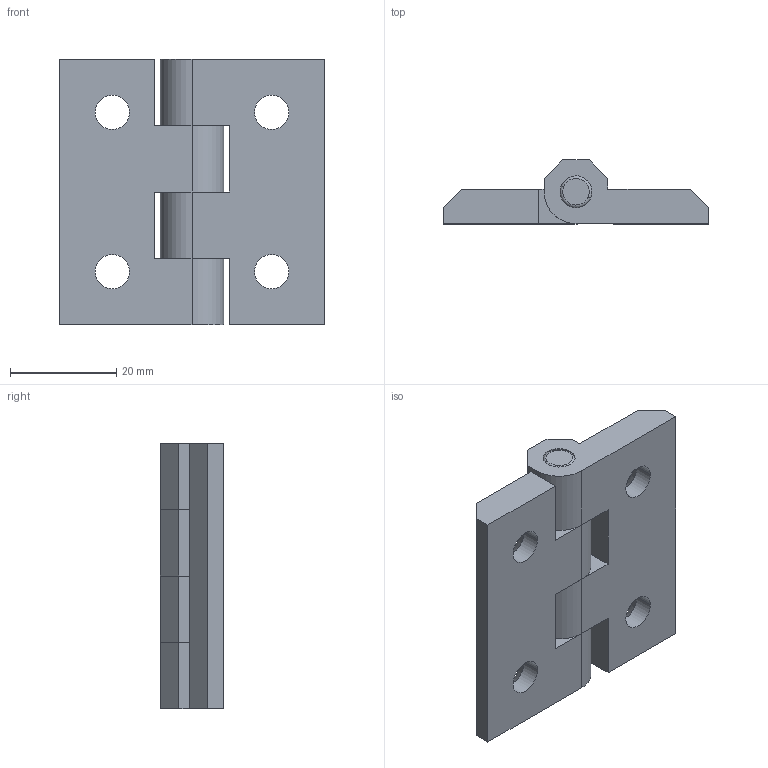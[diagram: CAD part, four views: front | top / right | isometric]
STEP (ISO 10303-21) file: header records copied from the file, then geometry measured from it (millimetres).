
FILE_DESCRIPTION (( 'STEP AP203' ), '1' );
FILE_NAME ('209-CE-HGAL-30.STEP', '2015-07-09T09:26:21', ( '' ), ( '' ), 'SwSTEP 2.0', 'SolidWorks 2013', '' );
FILE_SCHEMA (( 'CONFIG_CONTROL_DESIGN' ));
Length unit declared in the file: millimetre
Products named in the file (1): 209-CE-HGAL-30
Bounding box: 50 x 12 x 50 mm (x, y, z)
Surface area: 8180.6 mm2 (no closed solid volume)
Topology: 0 solids, 4 shells, 72 faces, 198 edges, 132 vertices
Faces by surface type: plane 44, cylinder 16, cone 8, torus 4
Entity records: 2394 total; most frequent: DIRECTION 404, CARTESIAN_POINT 403, ORIENTED_EDGE 384, EDGE_CURVE 198, LINE 138, VECTOR 138, AXIS2_PLACEMENT_3D 133, VERTEX_POINT 132
